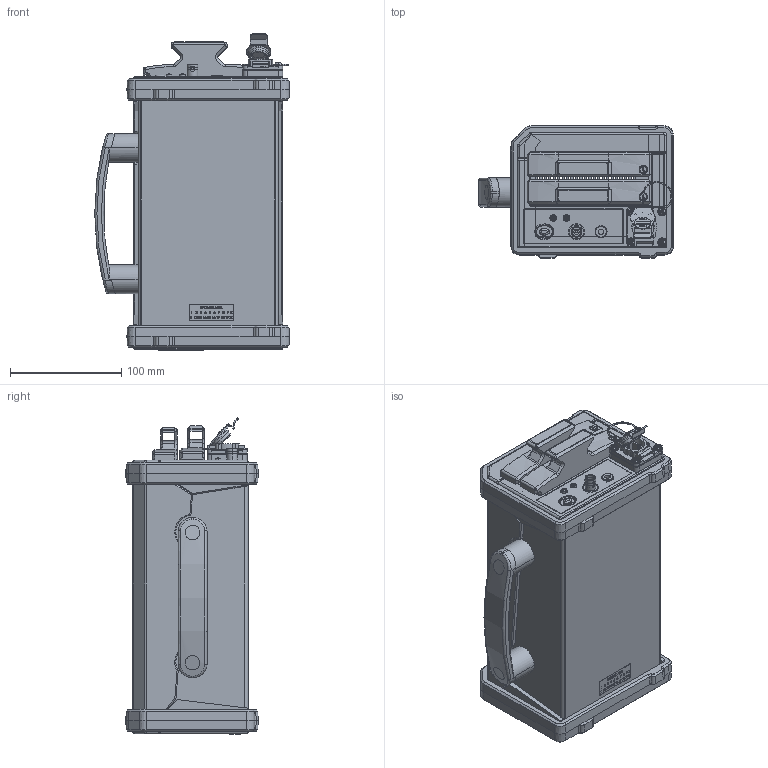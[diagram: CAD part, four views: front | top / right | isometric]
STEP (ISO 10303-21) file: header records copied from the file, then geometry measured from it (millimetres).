
FILE_DESCRIPTION (( 'STEP AP214' ), '1' );
FILE_NAME ('HV6600_ISOVE5600_model_export_17nov16.STEP', '2016-11-17T10:42:38', ( '' ), ( '' ), 'SwSTEP 2.0', 'SolidWorks 2016', '' );
FILE_SCHEMA (( 'AUTOMOTIVE_DESIGN' ));
Length unit declared in the file: millimetre
Products named in the file (1): HV6600_ISOVE5600_model_export_17nov16
Bounding box: 175 x 119 x 284.23 mm (x, y, z)
Surface area: 384257.5 mm2 (no closed solid volume)
Topology: 0 solids, 66 shells, 1150 faces, 4628 edges, 3473 vertices
Faces by surface type: plane 587, cylinder 316, cone 127, bspline 89, torus 31
Entity records: 68701 total; most frequent: CARTESIAN_POINT 19429, DIRECTION 7107, ORIENTED_EDGE 6877, EDGE_CURVE 4608, VERTEX_POINT 3473, VECTOR 2941, LINE 2941, AXIS2_PLACEMENT_3D 2083
